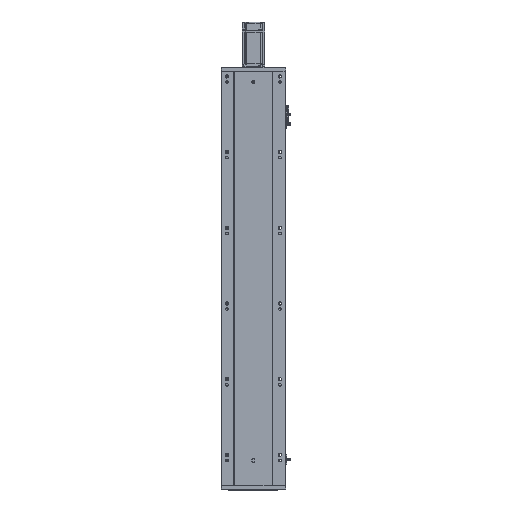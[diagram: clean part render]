
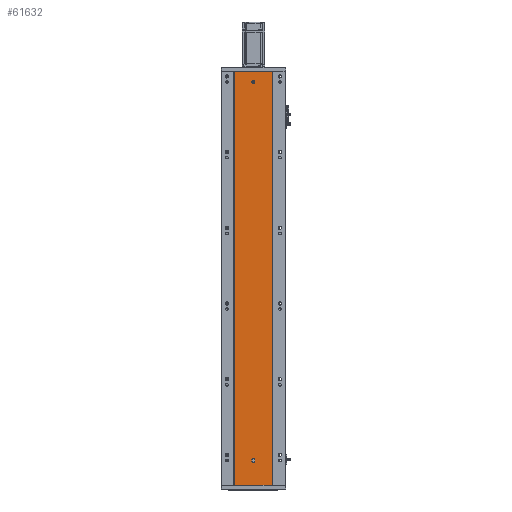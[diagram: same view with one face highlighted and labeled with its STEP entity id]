
A CAD part, front view. The second image highlights one B-rep face of the part: STEP entity #61632.
In plain terms, the highlighted planar face has unit normal (0, -1, 0).
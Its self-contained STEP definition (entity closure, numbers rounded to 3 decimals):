
#73 = DIRECTION ( 'NONE',  ( 0., -1., 0. ) ) ;
#539 = CARTESIAN_POINT ( 'NONE',  ( 136.47, 79.476, 1066. ) ) ;
#1145 = CARTESIAN_POINT ( 'NONE',  ( 86.97, 79.476, 729.333 ) ) ;
#3820 = DIRECTION ( 'NONE',  ( 0., -1., 0. ) ) ;
#4747 = CARTESIAN_POINT ( 'NONE',  ( 136.47, 79.476, 67.5 ) ) ;
#5904 = EDGE_CURVE ( 'NONE', #17145, #38911, #31667, .T. ) ;
#6246 = CARTESIAN_POINT ( 'NONE',  ( 86.97, 79.476, 364.667 ) ) ;
#9317 = CARTESIAN_POINT ( 'NONE',  ( 132.47, 79.476, 67.5 ) ) ;
#9803 = ORIENTED_EDGE ( 'NONE', *, *, #65684, .F. ) ;
#10103 = CARTESIAN_POINT ( 'NONE',  ( 185.97, 79.476, 0. ) ) ;
#10227 = CARTESIAN_POINT ( 'NONE',  ( 86.97, 79.476, 1094. ) ) ;
#10302 = CARTESIAN_POINT ( 'NONE',  ( 136.47, 79.476, 1070. ) ) ;
#10797 = DIRECTION ( 'NONE',  ( 0., 0., -1. ) ) ;
#10955 = AXIS2_PLACEMENT_3D ( 'NONE', #17854, #54928, #23166 ) ;
#11337 = VERTEX_POINT ( 'NONE', #66775 ) ;
#12353 = EDGE_CURVE ( 'NONE', #15384, #19332, #23964, .T. ) ;
#12724 = PLANE ( 'NONE',  #10955 ) ;
#12863 = CIRCLE ( 'NONE', #57513, 4. ) ;
#14212 = LINE ( 'NONE', #65556, #61621 ) ;
#15384 = VERTEX_POINT ( 'NONE', #27323 ) ;
#15451 = EDGE_CURVE ( 'NONE', #50883, #58700, #42009, .T. ) ;
#15868 = EDGE_LOOP ( 'NONE', ( #63376, #64144, #16083, #67641, #33608 ) ) ;
#16083 = ORIENTED_EDGE ( 'NONE', *, *, #37872, .F. ) ;
#17145 = VERTEX_POINT ( 'NONE', #66392 ) ;
#17402 = DIRECTION ( 'NONE',  ( 1., 0., 0. ) ) ;
#17854 = CARTESIAN_POINT ( 'NONE',  ( 0., 79.476, 1094. ) ) ;
#19324 = FACE_BOUND ( 'NONE', #15868, .T. ) ;
#19332 = VERTEX_POINT ( 'NONE', #65232 ) ;
#19416 = B_SPLINE_CURVE_WITH_KNOTS ( 'NONE', 3,
 ( #37978, #1145, #6246, #38207 ),
 .UNSPECIFIED., .F., .F.,
 ( 4, 4 ),
 ( 0., 1. ),
 .UNSPECIFIED. ) ;
#19510 = DIRECTION ( 'NONE',  ( 0., 0., -1. ) ) ;
#19930 = ORIENTED_EDGE ( 'NONE', *, *, #15451, .F. ) ;
#21010 = CARTESIAN_POINT ( 'NONE',  ( 132.47, 79.476, 64.5 ) ) ;
#21434 = CARTESIAN_POINT ( 'NONE',  ( 185.97, 79.476, 1094. ) ) ;
#21914 = VERTEX_POINT ( 'NONE', #10227 ) ;
#22066 = LINE ( 'NONE', #27289, #44438 ) ;
#22586 = VERTEX_POINT ( 'NONE', #52518 ) ;
#22696 = CARTESIAN_POINT ( 'NONE',  ( 136.47, 79.476, 1062. ) ) ;
#22867 = EDGE_CURVE ( 'NONE', #62969, #57386, #47486, .T. ) ;
#23166 = DIRECTION ( 'NONE',  ( 0., 0., 1. ) ) ;
#23725 = DIRECTION ( 'NONE',  ( 0., 0., -1. ) ) ;
#23964 = B_SPLINE_CURVE_WITH_KNOTS ( 'NONE', 3,
 ( #21434, #63187, #52949, #10103 ),
 .UNSPECIFIED., .F., .F.,
 ( 4, 4 ),
 ( 0., 1. ),
 .UNSPECIFIED. ) ;
#24492 = CIRCLE ( 'NONE', #26888, 4. ) ;
#24860 = DIRECTION ( 'NONE',  ( 0., 0., -1. ) ) ;
#26888 = AXIS2_PLACEMENT_3D ( 'NONE', #539, #73, #37162 ) ;
#27156 = EDGE_CURVE ( 'NONE', #38911, #11337, #45072, .T. ) ;
#27289 = CARTESIAN_POINT ( 'NONE',  ( 0., 79.476, 0. ) ) ;
#27323 = CARTESIAN_POINT ( 'NONE',  ( 185.97, 79.476, 1094. ) ) ;
#29467 = DIRECTION ( 'NONE',  ( 0., 0., 1. ) ) ;
#29725 = CARTESIAN_POINT ( 'NONE',  ( 136.47, 79.476, 64.5 ) ) ;
#31223 = AXIS2_PLACEMENT_3D ( 'NONE', #60027, #65276, #61157 ) ;
#31623 = AXIS2_PLACEMENT_3D ( 'NONE', #42998, #32355, #10797 ) ;
#31667 = CIRCLE ( 'NONE', #31623, 4. ) ;
#31818 = ORIENTED_EDGE ( 'NONE', *, *, #55198, .T. ) ;
#32355 = DIRECTION ( 'NONE',  ( 0., -1., 0. ) ) ;
#33608 = ORIENTED_EDGE ( 'NONE', *, *, #5904, .F. ) ;
#37162 = DIRECTION ( 'NONE',  ( 0., 0., -1. ) ) ;
#37662 = VECTOR ( 'NONE', #29467, 1000. ) ;
#37872 = EDGE_CURVE ( 'NONE', #11337, #62969, #12863, .T. ) ;
#37978 = CARTESIAN_POINT ( 'NONE',  ( 86.97, 79.476, 1094. ) ) ;
#38207 = CARTESIAN_POINT ( 'NONE',  ( 86.97, 79.476, 0. ) ) ;
#38911 = VERTEX_POINT ( 'NONE', #54097 ) ;
#39515 = CARTESIAN_POINT ( 'NONE',  ( 132.47, 79.476, 67.5 ) ) ;
#41659 = ORIENTED_EDGE ( 'NONE', *, *, #12353, .F. ) ;
#41811 = DIRECTION ( 'NONE',  ( 0., -1., 0. ) ) ;
#42009 = CIRCLE ( 'NONE', #31223, 4. ) ;
#42278 = EDGE_CURVE ( 'NONE', #57386, #17145, #52858, .T. ) ;
#42998 = CARTESIAN_POINT ( 'NONE',  ( 136.47, 79.476, 64.5 ) ) ;
#43523 = DIRECTION ( 'NONE',  ( 1., 0., 0. ) ) ;
#44438 = VECTOR ( 'NONE', #43523, 1000. ) ;
#45016 = VECTOR ( 'NONE', #23725, 1000. ) ;
#45072 = LINE ( 'NONE', #60784, #37662 ) ;
#45915 = EDGE_CURVE ( 'NONE', #22586, #19332, #22066, .T. ) ;
#46151 = EDGE_LOOP ( 'NONE', ( #9803, #19930 ) ) ;
#47486 = LINE ( 'NONE', #39515, #45016 ) ;
#49353 = ORIENTED_EDGE ( 'NONE', *, *, #68076, .F. ) ;
#50883 = VERTEX_POINT ( 'NONE', #10302 ) ;
#51456 = ORIENTED_EDGE ( 'NONE', *, *, #45915, .T. ) ;
#52501 = FACE_BOUND ( 'NONE', #46151, .T. ) ;
#52518 = CARTESIAN_POINT ( 'NONE',  ( 86.97, 79.476, 0. ) ) ;
#52858 = CIRCLE ( 'NONE', #63879, 4. ) ;
#52949 = CARTESIAN_POINT ( 'NONE',  ( 185.97, 79.476, 364.667 ) ) ;
#54097 = CARTESIAN_POINT ( 'NONE',  ( 140.47, 79.476, 64.5 ) ) ;
#54928 = DIRECTION ( 'NONE',  ( 0., 1., 0. ) ) ;
#55198 = EDGE_CURVE ( 'NONE', #21914, #22586, #19416, .T. ) ;
#57386 = VERTEX_POINT ( 'NONE', #21010 ) ;
#57513 = AXIS2_PLACEMENT_3D ( 'NONE', #4747, #41811, #24860 ) ;
#58364 = FACE_OUTER_BOUND ( 'NONE', #67406, .T. ) ;
#58700 = VERTEX_POINT ( 'NONE', #22696 ) ;
#60027 = CARTESIAN_POINT ( 'NONE',  ( 136.47, 79.476, 1066. ) ) ;
#60784 = CARTESIAN_POINT ( 'NONE',  ( 140.47, 79.476, 67.5 ) ) ;
#61157 = DIRECTION ( 'NONE',  ( 0., 0., -1. ) ) ;
#61621 = VECTOR ( 'NONE', #17402, 1000. ) ;
#61632 = ADVANCED_FACE ( 'NONE', ( #19324, #52501, #58364 ), #12724, .F. ) ;
#62969 = VERTEX_POINT ( 'NONE', #9317 ) ;
#63187 = CARTESIAN_POINT ( 'NONE',  ( 185.97, 79.476, 729.333 ) ) ;
#63376 = ORIENTED_EDGE ( 'NONE', *, *, #42278, .F. ) ;
#63879 = AXIS2_PLACEMENT_3D ( 'NONE', #29725, #3820, #19510 ) ;
#64144 = ORIENTED_EDGE ( 'NONE', *, *, #22867, .F. ) ;
#65232 = CARTESIAN_POINT ( 'NONE',  ( 185.97, 79.476, 0. ) ) ;
#65276 = DIRECTION ( 'NONE',  ( 0., -1., 0. ) ) ;
#65556 = CARTESIAN_POINT ( 'NONE',  ( 0., 79.476, 1094. ) ) ;
#65684 = EDGE_CURVE ( 'NONE', #58700, #50883, #24492, .T. ) ;
#66392 = CARTESIAN_POINT ( 'NONE',  ( 136.47, 79.476, 60.5 ) ) ;
#66775 = CARTESIAN_POINT ( 'NONE',  ( 140.47, 79.476, 67.5 ) ) ;
#67406 = EDGE_LOOP ( 'NONE', ( #51456, #41659, #49353, #31818 ) ) ;
#67641 = ORIENTED_EDGE ( 'NONE', *, *, #27156, .F. ) ;
#68076 = EDGE_CURVE ( 'NONE', #21914, #15384, #14212, .T. ) ;
